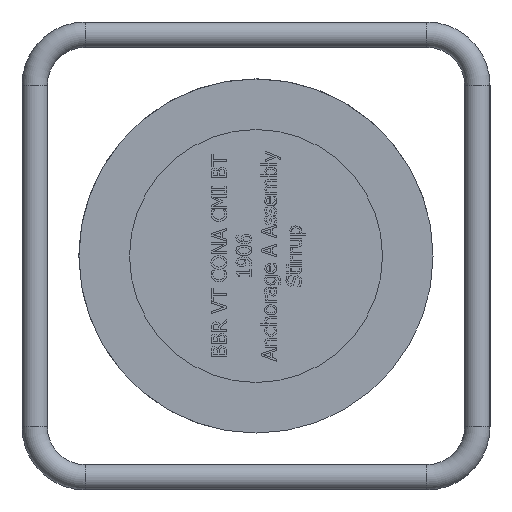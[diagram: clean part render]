
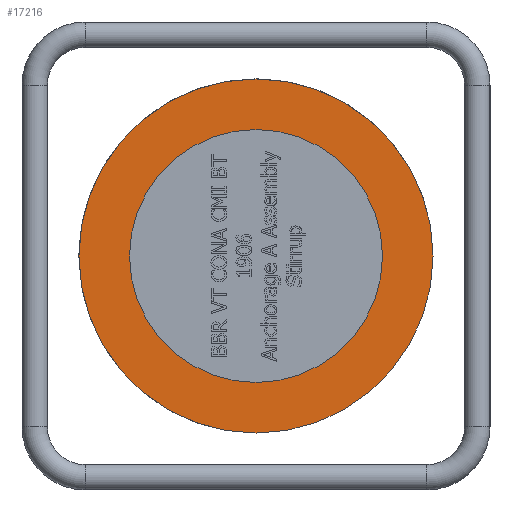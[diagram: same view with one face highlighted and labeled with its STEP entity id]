
A CAD part, left-side view. The second image highlights one B-rep face of the part: STEP entity #17216.
In plain terms, the highlighted planar face has unit normal (-1, 0, 0).
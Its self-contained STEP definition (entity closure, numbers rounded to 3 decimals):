
#109=FACE_BOUND('',#6087,.T.);
#845=PLANE('',#18088);
#5121=FACE_OUTER_BOUND('',#6086,.T.);
#6086=EDGE_LOOP('',(#15155));
#6087=EDGE_LOOP('',(#15156));
#6373=CIRCLE('',#18013,140.);
#6423=CIRCLE('',#18089,100.);
#7976=VERTEX_POINT('',#31810);
#8033=VERTEX_POINT('',#32507);
#10328=EDGE_CURVE('',#7976,#7976,#6373,.T.);
#10421=EDGE_CURVE('',#8033,#8033,#6423,.T.);
#15155=ORIENTED_EDGE('',*,*,#10328,.T.);
#15156=ORIENTED_EDGE('',*,*,#10421,.T.);
#17216=ADVANCED_FACE('',(#5121,#109),#845,.T.);
#18013=AXIS2_PLACEMENT_3D('',#31811,#20951,#20952);
#18088=AXIS2_PLACEMENT_3D('',#32506,#21115,#21116);
#18089=AXIS2_PLACEMENT_3D('',#32508,#21117,#21118);
#20951=DIRECTION('center_axis',(-1.,0.,0.));
#20952=DIRECTION('ref_axis',(0.,0.,1.));
#21115=DIRECTION('center_axis',(-1.,0.,0.));
#21116=DIRECTION('ref_axis',(0.,1.,0.));
#21117=DIRECTION('center_axis',(1.,0.,0.));
#21118=DIRECTION('ref_axis',(0.,1.,0.));
#31810=CARTESIAN_POINT('',(-161.995,0.,-140.));
#31811=CARTESIAN_POINT('Origin',(-161.995,0.,
0.));
#32506=CARTESIAN_POINT('Origin',(-161.995,0.,
111.));
#32507=CARTESIAN_POINT('',(-161.995,-100.,0.));
#32508=CARTESIAN_POINT('Origin',(-161.995,0.,
0.));
